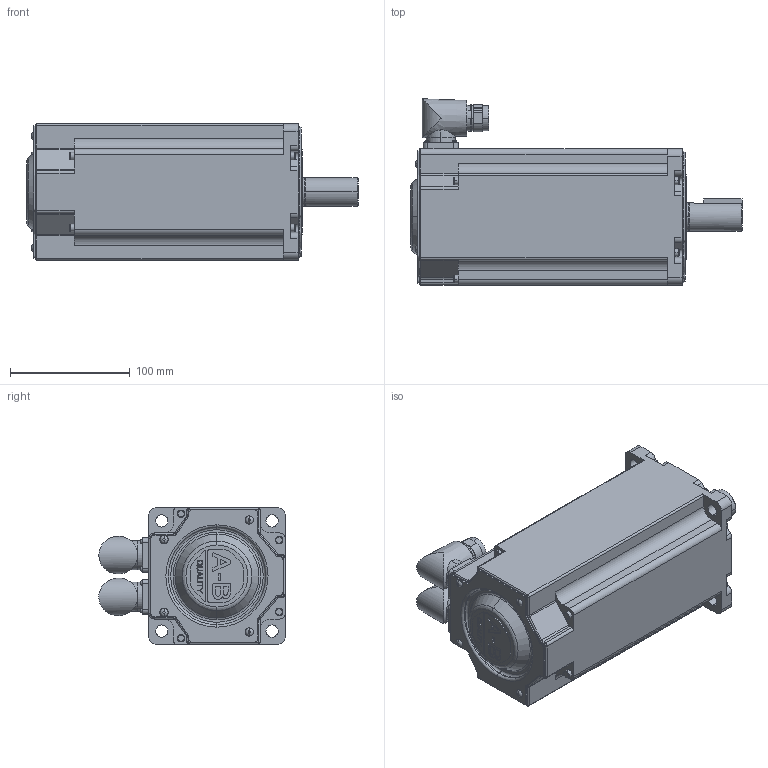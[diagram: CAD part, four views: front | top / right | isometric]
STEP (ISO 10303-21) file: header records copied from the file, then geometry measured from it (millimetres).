
FILE_DESCRIPTION (( 'STEP AP214' ), '1' );
FILE_NAME ('Rockwell Automation-MPM-B1302F-xx74xx.STEP', '2012-05-21T13:33:09', ( 'sysAdmin' ), ( 'SolidWorks' ), 'SwSTEP 2.0', 'SolidWorks 2012', '' );
FILE_SCHEMA (( 'AUTOMOTIVE_DESIGN' ));
Length unit declared in the file: inch
Products named in the file (5): Rockwell Automation-MPM-B1302F-xx74xx_Rockwell Automation-MPM_Medium_Inertia_Motor-MPM-B1302F-xx74xx_MPM-xxxx-Power Connector-M23; Rockwell Automation-MPM-B1302F-xx74xx_Rockwell Automation-MPM_Medium_Inertia_Motor-MPM-B1302F-xx74xx_MPM-xxxx-Encoder Connector; Rockwell Automation-MPM-B1302F-xx74xx_Rockwell Automation-MPM_Medium_Inertia_Motor-MPM-B1302F-xx74xx_MPM-130x-Shaft_1302-SHAFT-KEY; Rockwell Automation-MPM-B1302F-xx74xx_Rockwell Automation-MPM_Medium_Inertia_Motor-MPM-B1302F-xx74xx_MPM-130x-Body_1302-BRAKE; Rockwell Automation-MPM-B1302F-xx74xx
Assembly tree (4 placements, depth 2):
  Rockwell Automation-MPM-B1302F-xx74xx
    Rockwell Automation-MPM-B1302F-xx74xx_Rockwell Automation-MPM_Medium_Inertia_Motor-MPM-B1302F-xx74xx_MPM-130x-Body_1302-BRAKE
    Rockwell Automation-MPM-B1302F-xx74xx_Rockwell Automation-MPM_Medium_Inertia_Motor-MPM-B1302F-xx74xx_MPM-130x-Shaft_1302-SHAFT-KEY
    Rockwell Automation-MPM-B1302F-xx74xx_Rockwell Automation-MPM_Medium_Inertia_Motor-MPM-B1302F-xx74xx_MPM-xxxx-Encoder Connector
    Rockwell Automation-MPM-B1302F-xx74xx_Rockwell Automation-MPM_Medium_Inertia_Motor-MPM-B1302F-xx74xx_MPM-xxxx-Power Connector-M23
Bounding box: 277.09 x 155.45 x 113.79 mm (x, y, z)
Volume: 1220318.5 mm3; surface area: 262009.7 mm2
Topology: 5 solids, 5 shells, 1017 faces, 2509 edges, 1597 vertices
Faces by surface type: plane 408, cylinder 383, cone 99, torus 94, bspline 33
Entity records: 35316 total; most frequent: CARTESIAN_POINT 7585, DIRECTION 5446, ORIENTED_EDGE 5014, EDGE_CURVE 2507, AXIS2_PLACEMENT_3D 2059, VERTEX_POINT 1597, VECTOR 1328, LINE 1328
